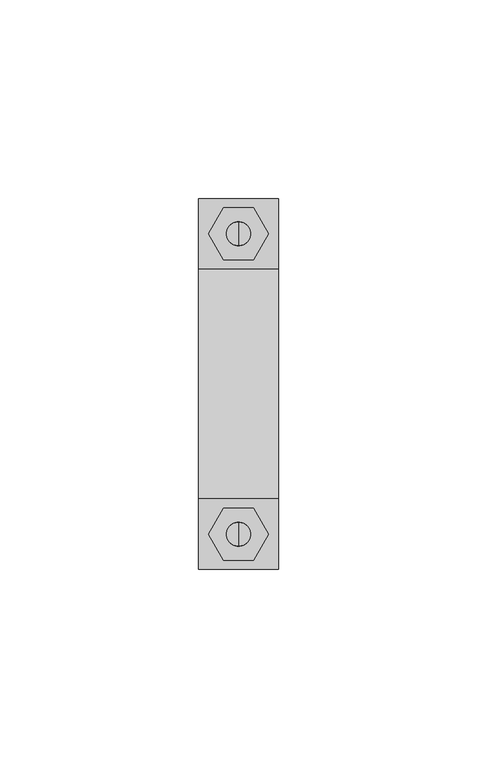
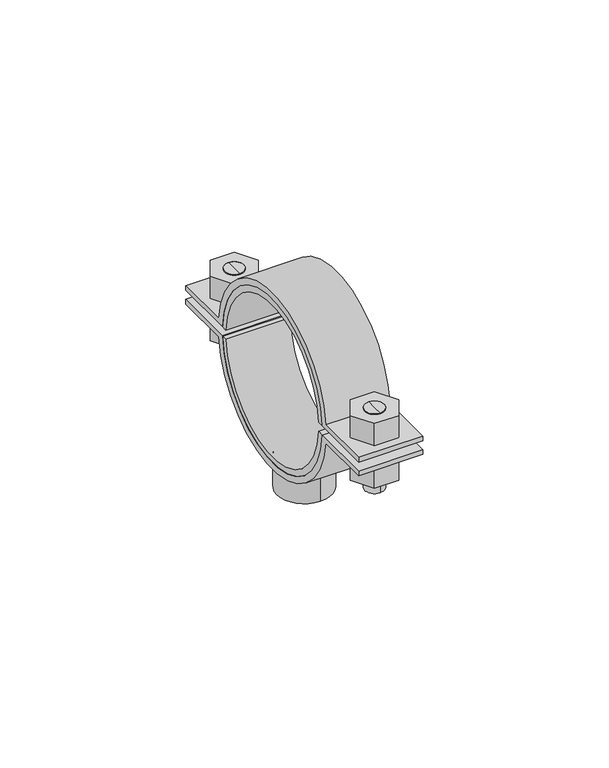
"""IFC4 building model written with IfcOpenShell, lengths in millimetres: valve geometry, Superfix DG2 Clamp (based on pipe) : Superfix DG2 Clamp (based on pipe)."""

import ifcopenshell
import ifcopenshell.guid

model = None  # the IFC model being written
_history = None  # IfcOwnerHistory: only IFC2X3 demands one
_inside = {}  # id of a spatial element -> (the spatial element, [elements in it])
_under = {}  # id of a project, library or spatial element -> (it, [spatial elements below it])
_declared = {}  # id of a project -> (the project, [libraries it declares])
_typed = {}  # id of a type object -> (the type object, [elements of that type])
_made_of = {}  # id of a material, layer set ... -> (it, [elements and type objects made of it])


def new_model(schema):
    """Start an empty IFC model of exactly this schema.

    Asked for "IFC4X3", IfcOpenShell would pick the latest addendum, in which some entities
    have other attributes; the version numbers below select the first issue.
    IFC2X3 requires an IfcOwnerHistory on every rooted entity: one is made here for all.
    """
    global model, _history
    if schema == "IFC4X3":
        model = ifcopenshell.file(schema_version=(4, 3, 0, 0))
    else:
        model = ifcopenshell.file(schema=schema)
    _inside.clear()
    _under.clear()
    _declared.clear()
    _typed.clear()
    _made_of.clear()
    _history = None
    if model.schema == "IFC2X3":
        org = make("IfcOrganization", Name="unknown")
        user = make(
            "IfcPersonAndOrganization",
            ThePerson=make("IfcPerson", FamilyName="unknown"),
            TheOrganization=org,
        )
        app = make(
            "IfcApplication",
            ApplicationDeveloper=org,
            Version="unknown",
            ApplicationFullName="unknown",
            ApplicationIdentifier="unknown",
        )
        _history = make(
            "IfcOwnerHistory",
            OwningUser=user,
            OwningApplication=app,
            ChangeAction="ADDED",
            CreationDate=0,
        )
    return model


def make(cls, **values):
    """One entity of the class cls with the attributes given. An attribute that is None is left unset."""
    return model.create_entity(
        cls, **{name: value for name, value in values.items() if value is not None}
    )


def rooted(cls, **values):
    """An entity with a GlobalId (a new one), such as an element, a storey or a relation."""
    return make(cls, GlobalId=ifcopenshell.guid.new(), OwnerHistory=_history, **values)


def si_unit(unit_type, name, prefix=None):
    """IfcSIUnit, for example si_unit("LENGTHUNIT", "METRE", prefix="MILLI")."""
    return make("IfcSIUnit", UnitType=unit_type, Prefix=prefix, Name=name)


def assignment(units):
    """IfcUnitAssignment: the units of a project."""
    return None if units is None else make("IfcUnitAssignment", Units=units)


def point(xyz):
    """IfcCartesianPoint."""
    return None if xyz is None else make("IfcCartesianPoint", Coordinates=xyz)


def direction(xyz):
    """IfcDirection."""
    return None if xyz is None else make("IfcDirection", DirectionRatios=xyz)


def frame(location, z_axis=None, x_axis=None):
    """IfcAxis2Placement3D, a coordinate frame: its origin and axes. An axis left out is left unset."""
    return make(
        "IfcAxis2Placement3D",
        Location=point(location),
        Axis=direction(z_axis),
        RefDirection=direction(x_axis),
    )


def frame_2d(location, x_axis=None):
    """IfcAxis2Placement2D, a coordinate frame in the plane: its origin and x axis."""
    return make(
        "IfcAxis2Placement2D", Location=point(location), RefDirection=direction(x_axis)
    )


def origin():
    """The frame at (0, 0, 0) with its axes left unset."""
    return frame((0.0, 0.0, 0.0))


def origin_2d():
    """The frame at (0, 0) in the plane with its x axis left unset."""
    return frame_2d((0.0, 0.0))


def place(relative_to, where):
    """IfcLocalPlacement: puts the frame where relative to a parent placement (None: the world)."""
    return make(
        "IfcLocalPlacement", PlacementRelTo=relative_to, RelativePlacement=where
    )


def context(
    kind, dimensions, precision=None, world=None, true_north=None, identifier=None
):
    """IfcGeometricRepresentationContext, for example the 3D "Model" context."""
    return make(
        "IfcGeometricRepresentationContext",
        ContextIdentifier=identifier,
        ContextType=kind,
        CoordinateSpaceDimension=dimensions,
        Precision=precision,
        WorldCoordinateSystem=world,
        TrueNorth=true_north,
    )


def project(units=None, contexts=None):
    """IfcProject with its units and contexts."""
    return rooted(
        "IfcProject",
        Name="project",
        RepresentationContexts=contexts,
        UnitsInContext=assignment(units),
    )


def spatial(cls, under=None, at=None, **own):
    """A site, building, storey or space (cls), placed at a placement, below another one or the project."""
    s = rooted(cls, ObjectPlacement=at, **own)
    if under is not None:
        _under.setdefault(under.id(), (under, []))[1].append(s)
    return s


def polyline(points):
    """IfcPolyline through the points."""
    return make("IfcPolyline", Points=[point(p) for p in points])


def circle_curve(where, radius):
    """IfcCircle in the frame where."""
    return make("IfcCircle", Position=where, Radius=radius)


def trimmed(basis, trim1, trim2, sense, master):
    """IfcTrimmedCurve: the piece of a basis curve between two trims."""
    return make(
        "IfcTrimmedCurve",
        BasisCurve=basis,
        Trim1=trim1,
        Trim2=trim2,
        SenseAgreement=sense,
        MasterRepresentation=master,
    )


def segment(curve, same_sense, transition):
    """IfcCompositeCurveSegment."""
    return make(
        "IfcCompositeCurveSegment",
        Transition=transition,
        SameSense=same_sense,
        ParentCurve=curve,
    )


def composite_curve(segments, self_intersect=None):
    """IfcCompositeCurve: segments joined end to end."""
    return make("IfcCompositeCurve", Segments=segments, SelfIntersect=self_intersect)


def outline(outer, holes=None, kind="AREA"):
    """IfcArbitraryClosedProfileDef: a profile drawn as a closed curve; with holes, ...WithVoids."""
    if holes is None:
        return make("IfcArbitraryClosedProfileDef", ProfileType=kind, OuterCurve=outer)
    return make(
        "IfcArbitraryProfileDefWithVoids",
        ProfileType=kind,
        OuterCurve=outer,
        InnerCurves=holes,
    )


def extrude(swept, where, along, depth):
    """IfcExtrudedAreaSolid: the profile swept, set in the frame where, extruded along a direction by depth."""
    return make(
        "IfcExtrudedAreaSolid",
        SweptArea=swept,
        Position=where,
        ExtrudedDirection=direction(along),
        Depth=depth,
    )


def shape(context_of_items, identifier, shape_type, items):
    """IfcShapeRepresentation: the items that make up one representation, for example the "Body"."""
    return make(
        "IfcShapeRepresentation",
        ContextOfItems=context_of_items,
        RepresentationIdentifier=identifier,
        RepresentationType=shape_type,
        Items=items,
    )


def source(mapping_origin, context_of_items, identifier, shape_type, items):
    """IfcRepresentationMap: a shape defined once, which mapped items show again and again."""
    return make(
        "IfcRepresentationMap",
        MappingOrigin=mapping_origin,
        MappedRepresentation=shape(context_of_items, identifier, shape_type, items),
    )


def transform(
    local_origin,
    x_axis=None,
    y_axis=None,
    z_axis=None,
    scale=None,
    scale2=None,
    scale3=None,
    uniform=True,
):
    """IfcCartesianTransformationOperator3D, or its non-uniform kind. x_axis, y_axis, z_axis: its Axis1, 2, 3."""
    if uniform:
        return make(
            "IfcCartesianTransformationOperator3D",
            Axis1=direction(x_axis),
            Axis2=direction(y_axis),
            LocalOrigin=point(local_origin),
            Scale=scale,
            Axis3=direction(z_axis),
        )
    return make(
        "IfcCartesianTransformationOperator3DnonUniform",
        Axis1=direction(x_axis),
        Axis2=direction(y_axis),
        LocalOrigin=point(local_origin),
        Scale=scale,
        Axis3=direction(z_axis),
        Scale2=scale2,
        Scale3=scale3,
    )


def mapped(mapping_source, mapping_target):
    """IfcMappedItem: shows the shape of a source again, moved by a transform."""
    return make(
        "IfcMappedItem", MappingSource=mapping_source, MappingTarget=mapping_target
    )


def made_of(thing, what):
    """Note that an element or type object is made of a material, layer set ...; save() writes the relation."""
    if what is not None:
        _made_of.setdefault(what.id(), (what, []))[1].append(thing)
    return thing


def element(
    cls,
    number,
    at=None,
    inside=None,
    cuts=None,
    type_object=None,
    material=None,
    context=None,
    identifier="Body",
    shape_type=None,
    held_by="IfcProductDefinitionShape",
    body=None,
    shapes=None,
    **own,
):
    """One element of the class cls, such as IfcWall. Its Tag is "e" and its number.

    at: its placement. inside: the storey or other place that contains it. cuts: it is an
    opening in that element (IfcRelVoidsElement). A single representation is given by context,
    identifier, shape_type and body (its items); several are given by shapes. held_by: the class
    of the entity that holds the representations. save() writes the other relations.
    """
    e = rooted(cls, Tag="e%d" % number, ObjectPlacement=at, **own)
    if body is not None:
        shapes = [shape(context, identifier, shape_type, body)]
    if shapes is not None:
        e.Representation = make(held_by, Representations=shapes)
    if inside is not None:
        _inside.setdefault(inside.id(), (inside, []))[1].append(e)
    if cuts is not None:
        rooted(
            "IfcRelVoidsElement", RelatingBuildingElement=cuts, RelatedOpeningElement=e
        )
    if type_object is not None:
        _typed.setdefault(type_object.id(), (type_object, []))[1].append(e)
    return made_of(e, material)


def aggregate(whole, parts):
    """IfcRelAggregates: a whole, such as a stair, and the parts it consists of."""
    return rooted("IfcRelAggregates", RelatingObject=whole, RelatedObjects=parts)


def save(model, path):
    """Write the relations noted so far, then the file.

    IfcRelAggregates (storeys below a building ...), IfcRelContainedInSpatialStructure (elements
    in a storey), IfcRelDefinesByType, IfcRelAssociatesMaterial and IfcRelDeclares: one each for
    every whole, place, type object, material and project.
    """
    for whole, parts in _under.values():
        aggregate(whole, parts)
    for where, things in _inside.values():
        rooted(
            "IfcRelContainedInSpatialStructure",
            RelatedElements=things,
            RelatingStructure=where,
        )
    for kind, things in _typed.values():
        rooted("IfcRelDefinesByType", RelatedObjects=things, RelatingType=kind)
    for what, things in _made_of.values():
        rooted("IfcRelAssociatesMaterial", RelatedObjects=things, RelatingMaterial=what)
    for by, libraries in _declared.values():
        rooted("IfcRelDeclares", RelatingContext=by, RelatedDefinitions=libraries)
    model.write(path)


def plane_surface(at):
    """IfcPlane: the flat surface through the origin of the frame at, square to its z axis."""
    return make("IfcPlane", Position=at)


def cylinder_surface(at, radius):
    """IfcCylindricalSurface: all points at the distance radius from the z axis of the frame at."""
    return make("IfcCylindricalSurface", Position=at, Radius=radius)


def advanced_brep(points, edges, surfaces, faces):
    """IfcAdvancedBrep: a solid bounded by faces that lie on surfaces and meet in shared edges.

    An edge is (start, end): straight between two places in points (the first is 0);
    or (start, end, curve); or (start, end, curve, False) where it runs against its curve.
    A face is (place in surfaces, loops), or (place, loops, False) where it looks against
    its surface's normal. A loop lists edges by number (the first is 1), with a minus sign
    where the edge is run from its end to its start. The first loop is the outer one.
    """
    corners = [point(p) for p in points]
    vertices = [make("IfcVertexPoint", VertexGeometry=c) for c in corners]
    made = []
    for start, end, *more in edges:
        made.append(
            make(
                "IfcEdgeCurve",
                EdgeStart=vertices[start],
                EdgeEnd=vertices[end],
                EdgeGeometry=more[0] if more else make("IfcPolyline", Points=[corners[start], corners[end]]),
                SameSense=more[1] if len(more) > 1 else True,
            )
        )
    hull = []
    for where, loops, *sense in faces:
        bounds = []
        for j, loop in enumerate(loops):
            ring = [make("IfcOrientedEdge", EdgeElement=made[abs(k) - 1], Orientation=k > 0) for k in loop]
            bounds.append(
                make(
                    "IfcFaceOuterBound" if j == 0 else "IfcFaceBound",
                    Bound=make("IfcEdgeLoop", EdgeList=ring),
                    Orientation=True,
                )
            )
        hull.append(make("IfcAdvancedFace", Bounds=bounds, FaceSurface=surfaces[where], SameSense=sense[0] if sense else True))
    return make("IfcAdvancedBrep", Outer=make("IfcClosedShell", CfsFaces=hull))


def valve_1406b70b(model_context):
    return source(origin(), model_context, "Body", "SolidModel", [
        advanced_brep(
        [(0.0, 40.75, 342.9002332), (0.0, 34.75, 342.9002332), (0.0, 34.75, 357.0002332), (0.0, 40.75, 357.0002332), (0.0, 37.75, 342.9002332)],
        [
            (0, 1, circle_curve(frame((0.0, 37.75, 342.9002332), z_axis=(0.0, 0.0, 1.0), x_axis=(0.0, 1.0, 0.0)), 3.0)),
            (1, 2),
            (2, 3, circle_curve(frame((0.0, 37.75, 357.0002332), z_axis=(0.0, 0.0, -1.0), x_axis=(0.0, 1.0, 0.0)), 3.0)),
            (3, 0),
            (1, 0, circle_curve(frame((0.0, 37.75, 342.9002332), z_axis=(0.0, 0.0, 1.0), x_axis=(0.0, 1.0, 0.0)), 3.0)),
            (3, 2, circle_curve(frame((0.0, 37.75, 357.0002332), z_axis=(0.0, 0.0, -1.0), x_axis=(0.0, 1.0, 0.0)), 3.0)),
            (0, 4),
            (4, 1),
        ],
        [
            cylinder_surface(frame((0.0, 37.75, 356.7808426), z_axis=(0.0, 0.0, 1.0), x_axis=(0.0, 1.0, 0.0)), 3.0),
            plane_surface(frame((0.0, 37.75, 342.9002332), z_axis=(0.0, 0.0, -1.0), x_axis=(0.0, 1.0, 0.0))),
            plane_surface(frame((13.75, -46.5, 357.0002332), z_axis=(0.0, 0.0, 1.0), x_axis=(-1.0, 0.0, 0.0))),
        ],
        [
            (0, [[1, 2, 3, 4]]),
            (0, [[5, -4, 6, -2]]),
            (1, [[-1, 7, 8]]),
            (1, [[-5, -8, -7]]),
            (2, [[-3, -6]]),
        ],
    ),
        advanced_brep(
        [(0.0, 34.75, 369.1002332), (0.0, 40.75, 369.1002332), (0.0, 40.75, 360.0002332), (0.0, 34.75, 360.0002332), (0.0, 37.75, 369.1002332)],
        [
            (0, 1, circle_curve(frame((0.0, 37.75, 369.1002332), z_axis=(0.0, 0.0, -1.0), x_axis=(0.0, 1.0, 0.0)), 3.0)),
            (1, 2),
            (2, 3, circle_curve(frame((0.0, 37.75, 360.0002332), z_axis=(0.0, 0.0, 1.0), x_axis=(0.0, 1.0, 0.0)), 3.0)),
            (3, 0),
            (1, 0, circle_curve(frame((0.0, 37.75, 369.1002332), z_axis=(0.0, 0.0, -1.0), x_axis=(0.0, 1.0, 0.0)), 3.0)),
            (3, 2, circle_curve(frame((0.0, 37.75, 360.0002332), z_axis=(0.0, 0.0, 1.0), x_axis=(0.0, 1.0, 0.0)), 3.0)),
            (0, 4),
            (4, 1),
        ],
        [
            cylinder_surface(frame((0.0, 37.75, 356.7808426), z_axis=(0.0, 0.0, 1.0), x_axis=(0.0, 1.0, 0.0)), 3.0),
            plane_surface(frame((0.0, 37.75, 369.1002332), z_axis=(0.0, 0.0, 1.0), x_axis=(0.0, 1.0, 0.0))),
            plane_surface(frame((13.75, 46.5, 360.0002332), z_axis=(0.0, 0.0, -1.0), x_axis=(-1.0, 0.0, 0.0))),
        ],
        [
            (0, [[1, 2, 3, 4]]),
            (0, [[5, -4, 6, -2]]),
            (1, [[-1, 7, 8]]),
            (1, [[-5, -8, -7]]),
            (2, [[-3, -6]]),
        ],
    ),
        advanced_brep(
        [(0.0, -40.75, 369.1002332), (0.0, -34.75, 369.1002332), (0.0, -34.75, 360.0002332), (0.0, -40.75, 360.0002332), (0.0, -37.75, 369.1002332)],
        [
            (0, 1, circle_curve(frame((0.0, -37.75, 369.1002332), z_axis=(0.0, 0.0, -1.0), x_axis=(0.0, -1.0, 0.0)), 3.0)),
            (1, 2),
            (2, 3, circle_curve(frame((0.0, -37.75, 360.0002332), z_axis=(0.0, 0.0, 1.0), x_axis=(0.0, -1.0, 0.0)), 3.0)),
            (3, 0),
            (1, 0, circle_curve(frame((0.0, -37.75, 369.1002332), z_axis=(0.0, 0.0, -1.0), x_axis=(0.0, -1.0, 0.0)), 3.0)),
            (3, 2, circle_curve(frame((0.0, -37.75, 360.0002332), z_axis=(0.0, 0.0, 1.0), x_axis=(0.0, -1.0, 0.0)), 3.0)),
            (0, 4),
            (4, 1),
        ],
        [
            cylinder_surface(frame((0.0, -37.75, 356.7808426), z_axis=(0.0, 0.0, -1.0), x_axis=(0.0, -1.0, 0.0)), 3.0),
            plane_surface(frame((0.0, -37.75, 369.1002332), z_axis=(0.0, 0.0, 1.0), x_axis=(0.0, -1.0, 0.0))),
            plane_surface(frame((13.75, 46.5, 360.0002332), z_axis=(0.0, 0.0, -1.0), x_axis=(-1.0, 0.0, 0.0))),
        ],
        [
            (0, [[1, 2, 3, 4]]),
            (0, [[5, -4, 6, -2]]),
            (1, [[-1, 7, 8]]),
            (1, [[-5, -8, -7]]),
            (2, [[-3, -6]]),
        ],
    ),
        advanced_brep(
        [(0.0, -34.75, 342.9002332), (0.0, -40.75, 342.9002332), (0.0, -40.75, 357.0002332), (0.0, -34.75, 357.0002332), (0.0, -37.75, 342.9002332)],
        [
            (0, 1, circle_curve(frame((0.0, -37.75, 342.9002332), z_axis=(0.0, 0.0, 1.0), x_axis=(0.0, -1.0, 0.0)), 3.0)),
            (1, 2),
            (2, 3, circle_curve(frame((0.0, -37.75, 357.0002332), z_axis=(0.0, 0.0, -1.0), x_axis=(0.0, -1.0, 0.0)), 3.0)),
            (3, 0),
            (1, 0, circle_curve(frame((0.0, -37.75, 342.9002332), z_axis=(0.0, 0.0, 1.0), x_axis=(0.0, -1.0, 0.0)), 3.0)),
            (3, 2, circle_curve(frame((0.0, -37.75, 357.0002332), z_axis=(0.0, 0.0, -1.0), x_axis=(0.0, -1.0, 0.0)), 3.0)),
            (0, 4),
            (4, 1),
        ],
        [
            cylinder_surface(frame((0.0, -37.75, 356.7808426), z_axis=(0.0, 0.0, -1.0), x_axis=(0.0, -1.0, 0.0)), 3.0),
            plane_surface(frame((0.0, -37.75, 342.9002332), z_axis=(0.0, 0.0, -1.0), x_axis=(0.0, -1.0, 0.0))),
            plane_surface(frame((13.75, -46.5, 357.0002332), z_axis=(0.0, 0.0, 1.0), x_axis=(-1.0, 0.0, 0.0))),
        ],
        [
            (0, [[1, 2, 3, 4]]),
            (0, [[5, -4, 6, -2]]),
            (1, [[-1, 7, 8]]),
            (1, [[-5, -8, -7]]),
            (2, [[-3, -6]]),
        ],
    ),
        extrude(outline(composite_curve([segment(trimmed(circle_curve(frame_2d((0.0, 358.5002332)), 27.0), [point((-26.9583011, 357.0002332))], [point((26.9583011, 357.0002332))], True, "CARTESIAN"), True, "CONTINUOUS"), segment(polyline([(26.9583011, 357.0002332), (46.5, 357.0002332), (46.5, 355.5002332), (28.8444102, 355.5002332)]), True, "CONTINUOUS"), segment(trimmed(circle_curve(frame_2d((0.0, 358.5002332)), 29.0), [point((28.8444102, 355.5002332))], [point((-28.8444102, 355.5002332))], False, "CARTESIAN"), True, "CONTINUOUS"), segment(polyline([(-28.8444102, 355.5002332), (-46.5, 355.5002332), (-46.5, 357.0002332), (-26.9583011, 357.0002332)]), True, "CONTINUOUS")], self_intersect=False)), frame((-10.0, 0.0, 0.0), z_axis=(1.0, 0.0, 0.0), x_axis=(0.0, 1.0, 0.0)), (0.0, 0.0, 1.0), 20.0),
        extrude(outline(composite_curve([segment(trimmed(circle_curve(frame_2d((0.0, 358.5002332)), 27.0), [point((26.9583011, 360.0002332))], [point((-26.9583011, 360.0002332))], True, "CARTESIAN"), True, "CONTINUOUS"), segment(polyline([(-26.9583011, 360.0002332), (-46.5, 360.0002332), (-46.5, 361.5002332), (-28.8444102, 361.5002332)]), True, "CONTINUOUS"), segment(trimmed(circle_curve(frame_2d((0.0, 358.5002332)), 29.0), [point((-28.8444102, 361.5002332))], [point((28.8444102, 361.5002332))], False, "CARTESIAN"), True, "CONTINUOUS"), segment(polyline([(28.8444102, 361.5002332), (46.5, 361.5002332), (46.5, 360.0002332), (26.9583011, 360.0002332)]), True, "CONTINUOUS")], self_intersect=False)), frame((-10.0, 0.0, 0.0), z_axis=(1.0, 0.0, 0.0), x_axis=(0.0, 1.0, 0.0)), (0.0, 0.0, 1.0), 20.0),
        extrude(outline(polyline([(7.5055535, -37.75), (3.7527767, -44.25), (-3.7527767, -44.25), (-7.5055535, -37.75), (-3.7527767, -31.25), (3.7527767, -31.25), (7.5055535, -37.75)]), holes=[composite_curve([segment(trimmed(circle_curve(frame_2d((0.0, -37.75)), 3.0), [point((3.0, -37.75))], [point((-3.0, -37.75))], True, "CARTESIAN"), True, "CONTINUOUS"), segment(trimmed(circle_curve(frame_2d((0.0, -37.75)), 3.0), [point((-3.0, -37.75))], [point((3.0, -37.75))], True, "CARTESIAN"), True, "CONTINUOUS")], self_intersect=False)]), frame((0.0, 0.0, 361.5002332), z_axis=(0.0, 0.0, 1.0), x_axis=(1.0, 0.0, 0.0)), (0.0, 0.0, 1.0), 7.6),
        extrude(outline(polyline([(7.5055535, 37.75), (3.7527767, 31.25), (-3.7527767, 31.25), (-7.5055535, 37.75), (-3.7527767, 44.25), (3.7527767, 44.25), (7.5055535, 37.75)]), holes=[composite_curve([segment(trimmed(circle_curve(frame_2d((0.0, 37.75)), 3.0), [point((3.0, 37.75))], [point((-3.0, 37.75))], True, "CARTESIAN"), True, "CONTINUOUS"), segment(trimmed(circle_curve(frame_2d((0.0, 37.75)), 3.0), [point((-3.0, 37.75))], [point((3.0, 37.75))], True, "CARTESIAN"), True, "CONTINUOUS")], self_intersect=False)]), frame((0.0, 0.0, 361.5002332), z_axis=(0.0, 0.0, 1.0), x_axis=(1.0, 0.0, 0.0)), (0.0, 0.0, 1.0), 7.6),
        extrude(outline(polyline([(7.5055535, -37.75), (3.7527767, -44.25), (-3.7527767, -44.25), (-7.5055535, -37.75), (-3.7527767, -31.25), (3.7527767, -31.25), (7.5055535, -37.75)]), holes=[composite_curve([segment(trimmed(circle_curve(frame_2d((0.0, -37.75)), 3.0), [point((3.0, -37.75))], [point((-3.0, -37.75))], True, "CARTESIAN"), True, "CONTINUOUS"), segment(trimmed(circle_curve(frame_2d((0.0, -37.75)), 3.0), [point((-3.0, -37.75))], [point((3.0, -37.75))], True, "CARTESIAN"), True, "CONTINUOUS")], self_intersect=False)]), frame((0.0, 0.0, 347.9002332), z_axis=(0.0, 0.0, 1.0), x_axis=(1.0, 0.0, 0.0)), (0.0, 0.0, 1.0), 7.6),
        extrude(outline(polyline([(7.5055535, 37.75), (3.7527767, 31.25), (-3.7527767, 31.25), (-7.5055535, 37.75), (-3.7527767, 44.25), (3.7527767, 44.25), (7.5055535, 37.75)]), holes=[composite_curve([segment(trimmed(circle_curve(frame_2d((0.0, 37.75)), 3.0), [point((3.0, 37.75))], [point((-3.0, 37.75))], True, "CARTESIAN"), True, "CONTINUOUS"), segment(trimmed(circle_curve(frame_2d((0.0, 37.75)), 3.0), [point((-3.0, 37.75))], [point((3.0, 37.75))], True, "CARTESIAN"), True, "CONTINUOUS")], self_intersect=False)]), frame((0.0, 0.0, 347.9002332), z_axis=(0.0, 0.0, 1.0), x_axis=(1.0, 0.0, 0.0)), (0.0, 0.0, 1.0), 7.6),
        extrude(outline(composite_curve([segment(trimmed(circle_curve(origin_2d(), 8.5), [point((0.0, 8.5))], [point((0.0, -8.5))], False, "CARTESIAN"), True, "CONTINUOUS"), segment(trimmed(circle_curve(origin_2d(), 8.5), [point((0.0, -8.5))], [point((0.0, 8.5))], False, "CARTESIAN"), True, "CONTINUOUS")], self_intersect=False), holes=[composite_curve([segment(trimmed(circle_curve(origin_2d(), 5.0), [point((0.0, 5.0))], [point((0.0, -5.0))], True, "CARTESIAN"), True, "CONTINUOUS"), segment(trimmed(circle_curve(origin_2d(), 5.0), [point((0.0, -5.0))], [point((0.0, 5.0))], True, "CARTESIAN"), True, "CONTINUOUS")], self_intersect=False)]), frame((0.0, 0.0, 320.5002332), z_axis=(0.0, 0.0, 1.0), x_axis=(1.0, 0.0, 0.0)), (0.0, 0.0, 1.0), 11.5),
        extrude(outline(composite_curve([segment(trimmed(circle_curve(frame_2d((0.0, 358.5002332)), 25.0), [point((24.9549594, 360.0002332))], [point((-24.9549594, 360.0002332))], True, "CARTESIAN"), True, "CONTINUOUS"), segment(polyline([(-24.9549594, 360.0002332), (-26.9583011, 360.0002332)]), True, "CONTINUOUS"), segment(trimmed(circle_curve(frame_2d((0.0, 358.5002332)), 27.0), [point((-26.9583011, 360.0002332))], [point((26.9583011, 360.0002332))], False, "CARTESIAN"), True, "CONTINUOUS"), segment(polyline([(26.9583011, 360.0002332), (24.9549594, 360.0002332)]), True, "CONTINUOUS")], self_intersect=False)), frame((-10.0, 0.0, 0.0), z_axis=(1.0, 0.0, 0.0), x_axis=(0.0, 1.0, 0.0)), (0.0, 0.0, 1.0), 20.0),
        extrude(outline(composite_curve([segment(polyline([(24.9549594, 357.0002332), (26.9583011, 357.0002332)]), True, "CONTINUOUS"), segment(trimmed(circle_curve(frame_2d((0.0, 358.5002332)), 27.0), [point((26.9583011, 357.0002332))], [point((-26.9583011, 357.0002332))], False, "CARTESIAN"), True, "CONTINUOUS"), segment(polyline([(-26.9583011, 357.0002332), (-24.9549594, 357.0002332)]), True, "CONTINUOUS"), segment(trimmed(circle_curve(frame_2d((0.0, 358.5002332)), 25.0), [point((-24.9549594, 357.0002332))], [point((24.9549594, 357.0002332))], True, "CARTESIAN"), True, "CONTINUOUS")], self_intersect=False)), frame((-10.0, 0.0, 0.0), z_axis=(1.0, 0.0, 0.0), x_axis=(0.0, 1.0, 0.0)), (0.0, 0.0, 1.0), 20.0),
    ])


if __name__ == "__main__":
    model = new_model("IFC4")
    model_context = context("Model", 3, world=origin())
    ifc_project = project(units=[si_unit("LENGTHUNIT", "METRE", prefix="MILLI")], contexts=[model_context])
    site = spatial("IfcSite", under=ifc_project)
    building = spatial("IfcBuilding", under=site)
    placement = place(None, origin())
    valve_shape = valve_1406b70b(model_context)
    element("IfcValve", 1, ObjectType="Superfix DG2 Clamp (based on pipe) : Superfix DG2 Clamp (based on pipe)", at=placement, inside=building, context=model_context, shape_type="MappedRepresentation", body=[
        mapped(valve_shape, transform((0.0, 0.0, 0.0), x_axis=(1.0, 0.0, 0.0), y_axis=(0.0, 1.0, 0.0), z_axis=(0.0, 0.0, 1.0))),
    ])
    save(model, "model.ifc")
